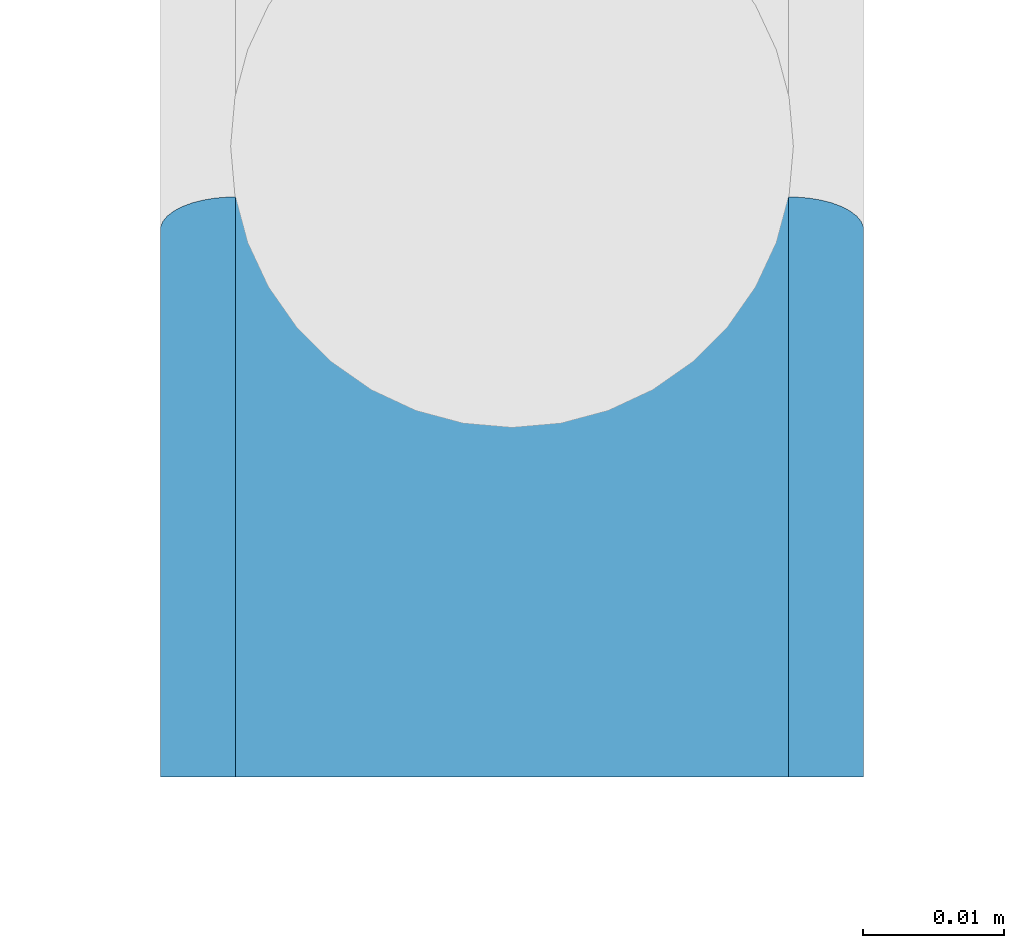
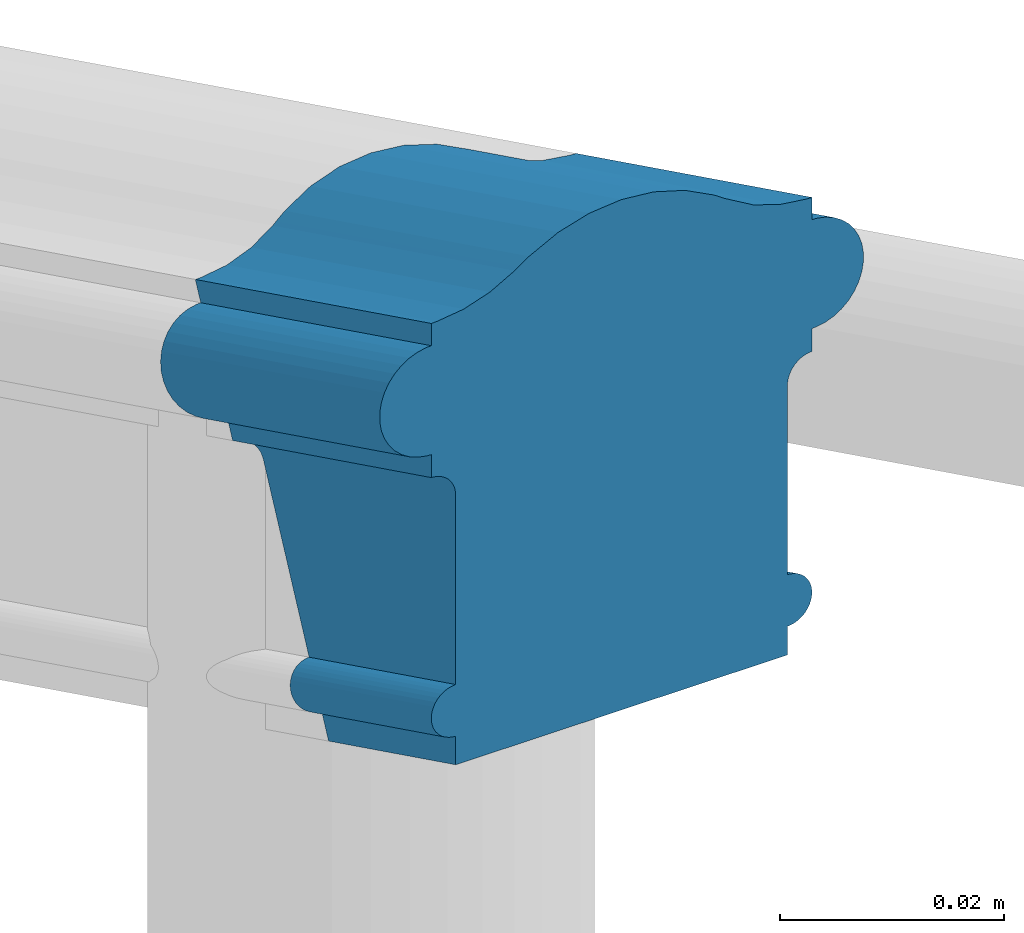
# One storey, part 15 of 16: 1 member, 1 element without a shape of its own.
"""IFC2X3 building model written with IfcOpenShell, lengths in millimetres."""

from ifc_helpers import new_model, entity, si_unit, converted_unit, derived_unit, money_unit, direction, frame, origin_with_axes, place, context, subcontext, project, spatial, faceted_brep, material, type_object, element, aggregate, save


model = new_model("IFC2X3")

# Units and contexts
model_context = context("Model", 3, precision=0.01, world=origin_with_axes(), true_north=direction((0.0, 1.0)))
body_context = subcontext(model_context, "Body", "Model", "MODEL_VIEW")
ifc_project = project(units=[si_unit("LENGTHUNIT", "METRE", prefix="MILLI"), si_unit("AREAUNIT", "SQUARE_METRE"), si_unit("VOLUMEUNIT", "CUBIC_METRE"), converted_unit("PLANEANGLEUNIT", "DEGREE", entity("IfcPlaneAngleMeasure", 0.0174532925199), si_unit("PLANEANGLEUNIT", "RADIAN"), dimensions=[0, 0, 0, 0, 0, 0, 0]), si_unit("SOLIDANGLEUNIT", "STERADIAN"), money_unit("EUR"), converted_unit("TIMEUNIT", "Year", entity("IfcTimeMeasure", 31556926.0), si_unit("TIMEUNIT", "SECOND"), dimensions=[0, 0, 1, 0, 0, 0, 0]), si_unit("MASSUNIT", "GRAM", prefix="KILO"), si_unit("THERMODYNAMICTEMPERATUREUNIT", "DEGREE_CELSIUS"), si_unit("LUMINOUSINTENSITYUNIT", "LUMEN"), si_unit("ENERGYUNIT", "JOULE", prefix="MEGA"), derived_unit("THERMALCONDUCTANCEUNIT", [(si_unit("POWERUNIT", "WATT"), 1), (si_unit("LENGTHUNIT", "METRE"), -1), (si_unit("THERMODYNAMICTEMPERATUREUNIT", "KELVIN"), -1)]), derived_unit("SPECIFICHEATCAPACITYUNIT", [(si_unit("ENERGYUNIT", "JOULE"), 1), (si_unit("MASSUNIT", "GRAM", prefix="KILO"), -1), (si_unit("THERMODYNAMICTEMPERATUREUNIT", "KELVIN"), -1)]), derived_unit("MASSDENSITYUNIT", [(si_unit("MASSUNIT", "GRAM", prefix="KILO"), 1), (si_unit("VOLUMEUNIT", "CUBIC_METRE"), -1)])], contexts=[model_context])

# Site, building, storey
site_placement = place(None, origin_with_axes())
site = spatial("IfcSite", under=ifc_project, at=site_placement, Name="Paldiski mnt 245/1, Tallinn, Harjumaa", CompositionType="COMPLEX")
building_placement = place(site_placement, origin_with_axes())
building = spatial("IfcBuilding", under=site, at=building_placement, Name="RKAS Hoone üldnimetus (kasutust iseloomustav) -> IFC Project Manager -> SOLIBRI", CompositionType="ELEMENT")
storey_placement = place(building_placement, frame((0.0, 0.0, -1200.0), z_axis=(0.0, 0.0, 1.0), x_axis=(1.0, 0.0, 0.0)))
storey = spatial("IfcBuildingStorey", under=building, at=storey_placement, Name="Vundament", CompositionType="ELEMENT", Elevation=-1200.0)

# Railing, member
railing_type = type_object("IfcRailingType", Name="Railing Type", PredefinedType="NOTDEFINED")
railing_placement = place(storey_placement, frame((-45764.8098199, -7778.11378171, 1483.63636364), z_axis=(0.0, 0.0, 1.0), x_axis=(-0.773149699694, -0.634223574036, 0.0)))
railing = element("IfcRailing", 1, at=railing_placement, inside=storey, type_object=railing_type, Name="PIIRE", PredefinedType="NOTDEFINED")
ifc_material = material(Name="ET-07_Teras - Roostevaba")
member_type = type_object("IfcMemberType", Name="IfcMember", PredefinedType="USERDEFINED")
member_placement = place(railing_placement, frame((0.0, 0.0, 0.0), z_axis=(0.0, 0.0, 1.0), x_axis=(-0.773149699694, 0.634223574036, 0.0)))
member = element("IfcMember", 2, at=member_placement, type_object=member_type, material=ifc_material, Name="Piirde ülemise osa ots - 001", ObjectType="Rail", context=body_context, shape_type="Brep", body=[
    faceted_brep([(17.1348314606, -2829.16714231, 2187.87370239), (17.1348314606, -2827.9258906, 2190.39356589), (17.1348314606, -2851.92643222, 2202.21591789), (17.1348314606, -2851.92643222, 2199.08463007), (-17.1348314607, -2829.16714231, 2187.87370239), (-17.1348314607, -2827.9258906, 2190.39356589), (-17.3551690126, -2827.9216396, 2190.40219585), (-17.7891492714, -2827.88782544, 2190.47084193), (-18.2032484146, -2827.82122454, 2190.60604832), (-18.5848842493, -2827.72386055, 2190.80370683), (-18.9224609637, -2827.59869181, 2191.05781173), (-19.2057214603, -2827.44952152, 2191.36064215), (-19.4260590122, -2827.28088214, 2191.70299674), (-19.5767787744, -2827.09789769, 2192.07447324), (-19.6533012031, -2826.90612806, 2192.46378452), (-19.6533012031, -2826.71140007, 2192.85910156), (-19.5767787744, -2826.51963044, 2193.24841284), (-19.4260590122, -2826.33664599, 2193.61988934), (-19.2057214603, -2826.1680066, 2193.96224394), (-18.9224609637, -2826.01883631, 2194.26507435), (-18.5848842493, -2825.89366757, 2194.51917925), (-18.2032484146, -2825.79630358, 2194.71683776), (-17.7891492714, -2825.72970269, 2194.85204415), (-17.3551690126, -2825.69588853, 2194.92069023), (-17.1348314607, -2825.69163752, 2194.92932019), (-17.1348314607, -2817.49937624, 2211.56041931), (-17.144451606, -2817.40201225, 2211.75807783), (-17.2209740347, -2817.21024262, 2212.14738911), (-17.3716937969, -2817.02725817, 2212.51886561), (-17.5920313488, -2816.85861878, 2212.8612202), (-17.8752918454, -2816.70944849, 2213.16405062), (-18.2128685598, -2816.58427975, 2213.41815551), (-18.5945043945, -2816.48691576, 2213.61581403), (-19.0086035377, -2816.42031487, 2213.75102042), (-19.4425837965, -2816.38650071, 2213.8196665), (-19.6629213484, -2816.3822497, 2213.82829646), (-19.6629213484, -2815.38924834, 2215.84418726), (-20.1280784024, -2815.38027399, 2215.86240606), (-21.0442589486, -2815.30888855, 2216.00732557), (-21.9184682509, -2815.16828666, 2216.29276128), (-22.7241439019, -2814.96274045, 2216.71004037), (-23.4368058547, -2814.69849534, 2217.24648403), (-24.0348002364, -2814.38358028, 2217.88579269), (-24.4999572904, -2814.0275638, 2218.60854128), (-24.818143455, -2813.64126329, 2219.39276945), (-24.9796908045, -2813.2364163, 2220.21464882), (-24.9796908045, -2812.82532388, 2221.04920701), (-24.818143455, -2812.42047688, 2221.87108638), (-24.4999572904, -2812.03417637, 2222.65531455), (-24.0348002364, -2811.6781599, 2223.37806314), (-23.4368058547, -2811.36324484, 2224.0173718), (-22.7241439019, -2811.09899973, 2224.55381546), (-21.9184682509, -2810.89345352, 2224.97109455), (-21.0442589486, -2810.75285163, 2225.25653026), (-20.1280784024, -2810.68146618, 2225.40144977), (-19.6629213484, -2810.67249184, 2225.41966857), (-19.6629213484, -2809.70848553, 2227.37669653), (-19.1300013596, -2809.70463304, 2227.38451748), (-16.3105120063, -2809.55442628, 2227.68945203), (-13.5928839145, -2809.19015466, 2228.42895937), (-11.0596908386, -2808.6228864, 2229.58056995), (-10.6117353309, -2808.49526207, 2229.83965993), (-9.55056179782, -2808.20367602, 2230.4316084), (-6.53296902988, -2807.58188702, 2231.69390145), (-3.31687530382, -2807.20109222, 2232.46695248), (0.0, -2807.07286188, 2232.72727273), (3.31687530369, -2807.20109222, 2232.46695248), (6.53296902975, -2807.58188702, 2231.69390145), (9.55056179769, -2808.20367602, 2230.4316084), (10.6117353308, -2808.49526207, 2229.83965993), (13.5928839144, -2809.19015466, 2228.42895937), (16.3105120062, -2809.55442628, 2227.68945203), (19.1300013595, -2809.70463304, 2227.38451748), (19.6629213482, -2809.70848553, 2227.37669653), (19.6629213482, -2810.67249184, 2225.41966857), (20.1280784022, -2810.68146618, 2225.40144977), (21.0442589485, -2810.75285163, 2225.25653026), (21.9184682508, -2810.89345352, 2224.97109455), (22.7241439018, -2811.09899973, 2224.55381546), (23.4368058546, -2811.36324484, 2224.0173718), (24.0348002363, -2811.6781599, 2223.37806314), (24.4999572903, -2812.03417637, 2222.65531455), (24.8181434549, -2812.42047688, 2221.87108638), (24.9796908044, -2812.82532388, 2221.04920701), (24.9796908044, -2813.2364163, 2220.21464882), (24.8181434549, -2813.64126329, 2219.39276945), (24.4999572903, -2814.0275638, 2218.60854128), (24.0348002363, -2814.38358028, 2217.88579269), (23.4368058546, -2814.69849534, 2217.24648403), (22.7241439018, -2814.96274045, 2216.71004037), (21.9184682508, -2815.16828666, 2216.29276128), (21.0442589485, -2815.30888855, 2216.00732557), (20.1280784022, -2815.38027399, 2215.86240606), (19.6629213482, -2815.38924834, 2215.84418726), (19.6629213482, -2816.3822497, 2213.82829646), (19.4425837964, -2816.38650071, 2213.8196665), (19.0086035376, -2816.42031487, 2213.75102042), (18.5945043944, -2816.48691576, 2213.61581403), (18.2128685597, -2816.58427975, 2213.41815551), (17.8752918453, -2816.70944849, 2213.16405062), (17.5920313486, -2816.85861878, 2212.8612202), (17.3716937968, -2817.02725817, 2212.51886561), (17.2209740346, -2817.21024262, 2212.14738911), (17.1444516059, -2817.40201225, 2211.75807783), (17.1348314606, -2817.49937624, 2211.56041931), (17.1348314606, -2825.69163752, 2194.92932019), (17.3551690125, -2825.69588853, 2194.92069023), (17.7891492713, -2825.72970269, 2194.85204415), (18.2032484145, -2825.79630358, 2194.71683776), (18.5848842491, -2825.89366757, 2194.51917925), (18.9224609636, -2826.01883631, 2194.26507435), (19.2057214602, -2826.1680066, 2193.96224394), (19.4260590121, -2826.33664599, 2193.61988934), (19.5767787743, -2826.51963044, 2193.24841284), (19.653301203, -2826.71140007, 2192.85910156), (19.653301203, -2826.90612806, 2192.46378452), (19.5767787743, -2827.09789769, 2192.07447324), (19.4260590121, -2827.28088214, 2191.70299674), (19.2057214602, -2827.44952152, 2191.36064215), (18.9224609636, -2827.59869181, 2191.05781173), (18.5848842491, -2827.72386055, 2190.80370683), (18.2032484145, -2827.82122454, 2190.60604832), (17.7891492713, -2827.88782544, 2190.47084193), (17.3551690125, -2827.9216396, 2190.40219585), (17.3551690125, -2851.92643222, 2202.22664183), (17.7891492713, -2851.92643222, 2202.31194433), (18.2032484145, -2851.92643222, 2202.47995744), (18.5848842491, -2851.92643222, 2202.72557619), (18.9224609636, -2851.92643222, 2203.04133756), (19.2057214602, -2851.92643222, 2203.41764731), (19.4260590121, -2851.92643222, 2203.84307145), (19.5767787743, -2851.92643222, 2204.30468369), (19.653301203, -2851.92643222, 2204.78845818), (19.653301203, -2851.92643222, 2205.27969566), (19.5767787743, -2851.92643222, 2205.76347015), (19.4260590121, -2851.92643222, 2206.22508239), (19.2057214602, -2851.92643222, 2206.65050653), (18.9224609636, -2851.92643222, 2207.02681628), (18.5848842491, -2851.92643222, 2207.34257765), (18.2032484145, -2851.92643222, 2207.5881964), (17.7891492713, -2851.92643222, 2207.75620951), (17.3551690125, -2851.92643222, 2207.84151201), (17.1348314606, -2851.92643222, 2207.85223595), (17.1348314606, -2851.92643222, 2228.51873552), (17.1444516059, -2851.92643222, 2228.76435427), (17.2209740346, -2851.92643222, 2229.24812875), (17.3716937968, -2851.92643222, 2229.70974099), (17.5920313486, -2851.92643222, 2230.13516514), (17.8752918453, -2851.92643222, 2230.51147488), (18.2128685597, -2851.92643222, 2230.82723625), (18.5945043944, -2851.92643222, 2231.072855), (19.0086035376, -2851.92643222, 2231.24086811), (19.4425837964, -2851.92643222, 2231.32617061), (19.6629213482, -2851.92643222, 2231.33689455), (19.6629213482, -2851.92643222, 2233.8419248), (20.1280784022, -2851.92643222, 2233.86456425), (21.0442589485, -2851.92643222, 2234.04464729), (21.9184682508, -2851.92643222, 2234.39934165), (22.7241439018, -2851.92643222, 2234.9178701), (23.4368058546, -2851.92643222, 2235.58447744), (24.0348002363, -2851.92643222, 2236.37890913), (24.4999572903, -2851.92643222, 2237.27702677), (24.8181434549, -2851.92643222, 2238.2515415), (24.9796908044, -2851.92643222, 2239.27284319), (24.9796908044, -2851.92643222, 2240.30990011), (24.8181434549, -2851.92643222, 2241.3312018), (24.4999572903, -2851.92643222, 2242.30571653), (24.0348002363, -2851.92643222, 2243.20383417), (23.4368058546, -2851.92643222, 2243.99826586), (22.7241439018, -2851.92643222, 2244.6648732), (21.9184682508, -2851.92643222, 2245.18340165), (21.0442589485, -2851.92643222, 2245.53809601), (20.1280784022, -2851.92643222, 2245.71817905), (19.6629213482, -2851.92643222, 2245.7408185), (19.6629213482, -2851.92643222, 2248.17270332), (19.1300013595, -2851.92643222, 2248.18242196), (16.3105120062, -2851.92643222, 2248.56134638), (13.5928839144, -2851.92643222, 2249.48028915), (10.6117353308, -2851.92643222, 2251.23328468), (9.55056179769, -2851.92643222, 2251.96886462), (6.53296902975, -2851.92643222, 2253.53744278), (3.31687530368, -2851.92643222, 2254.49806833), (0.0, -2851.92643222, 2254.82155315), (-3.31687530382, -2851.92643222, 2254.49806833), (-6.53296902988, -2851.92643222, 2253.53744278), (-9.55056179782, -2851.92643222, 2251.96886462), (-10.6117353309, -2851.92643222, 2251.23328468), (-11.0596908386, -2851.92643222, 2250.91132863), (-13.5928839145, -2851.92643222, 2249.48028915), (-16.3105120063, -2851.92643222, 2248.56134638), (-19.1300013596, -2851.92643222, 2248.18242196), (-19.6629213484, -2851.92643222, 2248.17270332), (-19.6629213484, -2851.92643222, 2245.7408185), (-20.1280784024, -2851.92643222, 2245.71817905), (-21.0442589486, -2851.92643222, 2245.53809601), (-21.9184682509, -2851.92643222, 2245.18340165), (-22.7241439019, -2851.92643222, 2244.6648732), (-23.4368058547, -2851.92643222, 2243.99826586), (-24.0348002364, -2851.92643222, 2243.20383417), (-24.4999572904, -2851.92643222, 2242.30571653), (-24.818143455, -2851.92643222, 2241.3312018), (-24.9796908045, -2851.92643222, 2240.30990011), (-24.9796908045, -2851.92643222, 2239.27284319), (-24.818143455, -2851.92643222, 2238.2515415), (-24.4999572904, -2851.92643222, 2237.27702677), (-24.0348002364, -2851.92643222, 2236.37890913), (-23.4368058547, -2851.92643222, 2235.58447744), (-22.7241439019, -2851.92643222, 2234.9178701), (-21.9184682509, -2851.92643222, 2234.39934165), (-21.0442589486, -2851.92643222, 2234.04464729), (-20.1280784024, -2851.92643222, 2233.86456425), (-19.6629213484, -2851.92643222, 2233.8419248), (-19.6629213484, -2851.92643222, 2231.33689455), (-19.4425837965, -2851.92643222, 2231.32617061), (-19.0086035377, -2851.92643222, 2231.24086811), (-18.5945043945, -2851.92643222, 2231.072855), (-18.2128685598, -2851.92643222, 2230.82723625), (-17.8752918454, -2851.92643222, 2230.51147488), (-17.5920313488, -2851.92643222, 2230.13516514), (-17.3716937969, -2851.92643222, 2229.70974099), (-17.2209740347, -2851.92643222, 2229.24812875), (-17.144451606, -2851.92643222, 2228.76435427), (-17.1348314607, -2851.92643222, 2228.51873552), (-17.1348314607, -2851.92643222, 2207.85223595), (-17.3551690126, -2851.92643222, 2207.84151201), (-17.7891492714, -2851.92643222, 2207.75620951), (-18.2032484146, -2851.92643222, 2207.5881964), (-18.5848842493, -2851.92643222, 2207.34257765), (-18.9224609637, -2851.92643222, 2207.02681628), (-19.2057214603, -2851.92643222, 2206.65050653), (-19.4260590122, -2851.92643222, 2206.22508239), (-19.5767787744, -2851.92643222, 2205.76347015), (-19.6533012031, -2851.92643222, 2205.27969566), (-19.6533012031, -2851.92643222, 2204.78845818), (-19.5767787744, -2851.92643222, 2204.30468369), (-19.4260590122, -2851.92643222, 2203.84307145), (-19.2057214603, -2851.92643222, 2203.41764731), (-18.9224609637, -2851.92643222, 2203.04133756), (-18.5848842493, -2851.92643222, 2202.72557619), (-18.2032484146, -2851.92643222, 2202.47995744), (-17.7891492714, -2851.92643222, 2202.31194433), (-17.3551690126, -2851.92643222, 2202.22664183), (-17.1348314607, -2851.92643222, 2202.21591789), (-17.1348314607, -2851.92643222, 2199.08463007)], [[[0, 1, 2, 3]], [[0, 4, 5, 6, 7, 8, 9, 10, 11, 12, 13, 14, 15, 16, 17, 18, 19, 20, 21, 22, 23, 24, 25, 26, 27, 28, 29, 30, 31, 32, 33, 34, 35, 36, 37, 38, 39, 40, 41, 42, 43, 44, 45, 46, 47, 48, 49, 50, 51, 52, 53, 54, 55, 56, 57, 58, 59, 60, 61, 62, 63, 64, 65, 66, 67, 68, 69, 70, 71, 72, 73, 74, 75, 76, 77, 78, 79, 80, 81, 82, 83, 84, 85, 86, 87, 88, 89, 90, 91, 92, 93, 94, 95, 96, 97, 98, 99, 100, 101, 102, 103, 104, 105, 106, 107, 108, 109, 110, 111, 112, 113, 114, 115, 116, 117, 118, 119, 120, 121, 122, 123, 1]], [[1, 123, 124, 2]], [[3, 2, 124, 125, 126, 127, 128, 129, 130, 131, 132, 133, 134, 135, 136, 137, 138, 139, 140, 141, 142, 143, 144, 145, 146, 147, 148, 149, 150, 151, 152, 153, 154, 155, 156, 157, 158, 159, 160, 161, 162, 163, 164, 165, 166, 167, 168, 169, 170, 171, 172, 173, 174, 175, 176, 177, 178, 179, 180, 181, 182, 183, 184, 185, 186, 187, 188, 189, 190, 191, 192, 193, 194, 195, 196, 197, 198, 199, 200, 201, 202, 203, 204, 205, 206, 207, 208, 209, 210, 211, 212, 213, 214, 215, 216, 217, 218, 219, 220, 221, 222, 223, 224, 225, 226, 227, 228, 229, 230, 231, 232, 233, 234, 235, 236, 237, 238, 239, 240, 241, 242, 243]], [[4, 0, 3, 243]], [[5, 4, 243, 242]], [[6, 5, 242, 241]], [[7, 6, 241, 240]], [[8, 7, 240, 239]], [[9, 8, 239, 238]], [[10, 9, 238, 237]], [[11, 10, 237, 236]], [[12, 11, 236, 235]], [[13, 12, 235, 234]], [[14, 13, 234, 233]], [[15, 14, 233, 232]], [[16, 15, 232, 231]], [[17, 16, 231, 230]], [[18, 17, 230, 229]], [[19, 18, 229, 228]], [[20, 19, 228, 227]], [[21, 20, 227, 226]], [[22, 21, 226, 225]], [[23, 22, 225, 224]], [[24, 23, 224, 223]], [[25, 24, 223, 222]], [[26, 25, 222, 221]], [[27, 26, 221, 220]], [[28, 27, 220, 219]], [[29, 28, 219, 218]], [[30, 29, 218, 217]], [[31, 30, 217, 216]], [[32, 31, 216, 215]], [[33, 32, 215, 214]], [[34, 33, 214, 213]], [[35, 34, 213, 212]], [[36, 35, 212, 211]], [[37, 36, 211, 210]], [[38, 37, 210, 209]], [[39, 38, 209, 208]], [[40, 39, 208, 207]], [[41, 40, 207, 206]], [[42, 41, 206, 205]], [[43, 42, 205, 204]], [[44, 43, 204, 203]], [[45, 44, 203, 202]], [[46, 45, 202, 201]], [[47, 46, 201, 200]], [[48, 47, 200, 199]], [[49, 48, 199, 198]], [[50, 49, 198, 197]], [[51, 50, 197, 196]], [[52, 51, 196, 195]], [[53, 52, 195, 194]], [[54, 53, 194, 193]], [[55, 54, 193, 192]], [[56, 55, 192, 191]], [[57, 56, 191, 190]], [[58, 57, 190, 189]], [[59, 58, 189, 188]], [[60, 59, 188, 187]], [[61, 60, 187, 186]], [[62, 61, 186, 185]], [[63, 62, 185, 184]], [[64, 63, 184, 183]], [[65, 64, 183, 182]], [[66, 65, 182, 181]], [[67, 66, 181, 180]], [[68, 67, 180, 179]], [[69, 68, 179, 178]], [[70, 69, 178, 177]], [[71, 70, 177, 176]], [[72, 71, 176, 175]], [[73, 72, 175, 174]], [[74, 73, 174, 173]], [[75, 74, 173, 172]], [[76, 75, 172, 171]], [[77, 76, 171, 170]], [[78, 77, 170, 169]], [[79, 78, 169, 168]], [[80, 79, 168, 167]], [[81, 80, 167, 166]], [[82, 81, 166, 165]], [[83, 82, 165, 164]], [[84, 83, 164, 163]], [[85, 84, 163, 162]], [[86, 85, 162, 161]], [[87, 86, 161, 160]], [[88, 87, 160, 159]], [[89, 88, 159, 158]], [[90, 89, 158, 157]], [[91, 90, 157, 156]], [[92, 91, 156, 155]], [[93, 92, 155, 154]], [[94, 93, 154, 153]], [[95, 94, 153, 152]], [[96, 95, 152, 151]], [[97, 96, 151, 150]], [[98, 97, 150, 149]], [[99, 98, 149, 148]], [[100, 99, 148, 147]], [[101, 100, 147, 146]], [[102, 101, 146, 145]], [[103, 102, 145, 144]], [[104, 103, 144, 143]], [[105, 104, 143, 142]], [[106, 105, 142, 141]], [[107, 106, 141, 140]], [[108, 107, 140, 139]], [[109, 108, 139, 138]], [[110, 109, 138, 137]], [[111, 110, 137, 136]], [[112, 111, 136, 135]], [[113, 112, 135, 134]], [[114, 113, 134, 133]], [[115, 114, 133, 132]], [[116, 115, 132, 131]], [[117, 116, 131, 130]], [[118, 117, 130, 129]], [[119, 118, 129, 128]], [[120, 119, 128, 127]], [[121, 120, 127, 126]], [[122, 121, 126, 125]], [[123, 122, 125, 124]]]),
])
aggregate(railing, [member])

save(model, "model.ifc")
